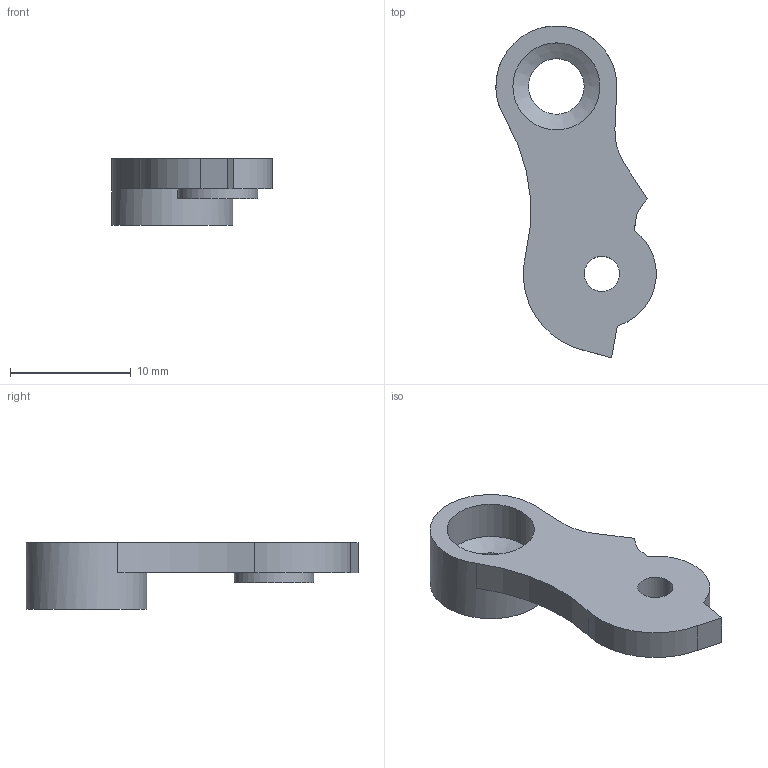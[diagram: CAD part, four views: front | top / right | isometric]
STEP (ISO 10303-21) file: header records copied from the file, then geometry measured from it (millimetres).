
FILE_DESCRIPTION( ( '' ), ' ' );
FILE_NAME( '/vol/tmp/translate-4439315568698915543/57d0875678fb4010ab1f25b2.step', '2016-09-07T21:32:06', ( '' ), ( '' ), ' ', ' ', ' ' );
FILE_SCHEMA( ( 'AUTOMOTIVE_DESIGN { 1 0 10303 214 1 1 1 1 }' ) );
Length unit declared in the file: metre
Products named in the file (1): SCH_Cover rev2
Bounding box: 13.25 x 27.45 x 5.5 mm (x, y, z)
Volume: 647.6 mm3; surface area: 831.9 mm2
Topology: 1 solids, 1 shells, 20 faces, 51 edges, 34 vertices
Faces by surface type: cylinder 10, plane 9, cone 1
Full cylindrical faces by diameter (mm): 2.9 x1, 4.6 x1, 6.6 x1, 7.2 x1, 10 x1
Entity records: 743 total; most frequent: DIRECTION 105, CARTESIAN_POINT 94, ORIENTED_EDGE 84, AXIS2_PLACEMENT_3D 42, EDGE_CURVE 42, EDGE_LOOP 31, VERTEX_POINT 31, FACE_OUTER_BOUND 25
